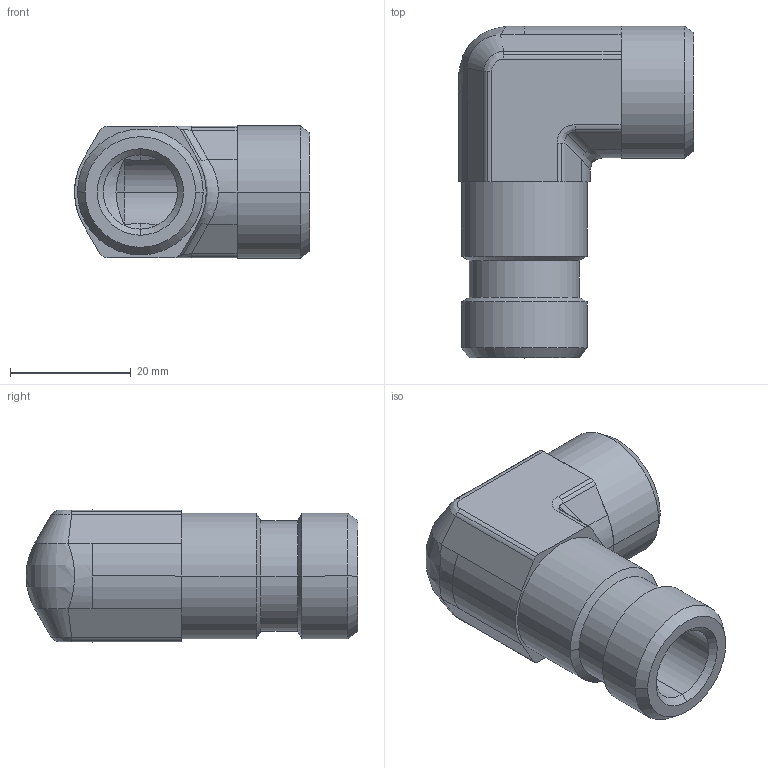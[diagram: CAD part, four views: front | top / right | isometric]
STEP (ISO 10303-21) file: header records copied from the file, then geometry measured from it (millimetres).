
FILE_DESCRIPTION((''),'2;1');
FILE_NAME('106108.stp','2007-10-31T14:50:48',(''),(''),'AutoCAD STEP 2000i','AutoCAD 2000i',', , ');
FILE_SCHEMA(('CONFIG_CONTROL_DESIGN'));
Length unit declared in the file: millimetre
Products named in the file (2): 106108.0; 3090#0
Assembly tree (1 placements, depth 2):
  106108.0
    3090#0
Bounding box: 38.9 x 54.92 x 21.85 mm (x, y, z)
Volume: 16903.7 mm3; surface area: 8133.3 mm2
Topology: 1 solids, 1 shells, 99 faces, 228 edges, 135 vertices
Faces by surface type: cylinder 44, plane 22, cone 21, bspline 12
Entity records: 3684 total; most frequent: CARTESIAN_POINT 1338, DIRECTION 492, ORIENTED_EDGE 456, EDGE_CURVE 228, AXIS2_PLACEMENT_3D 200, VERTEX_POINT 135, EDGE_LOOP 105, CIRCLE 101
